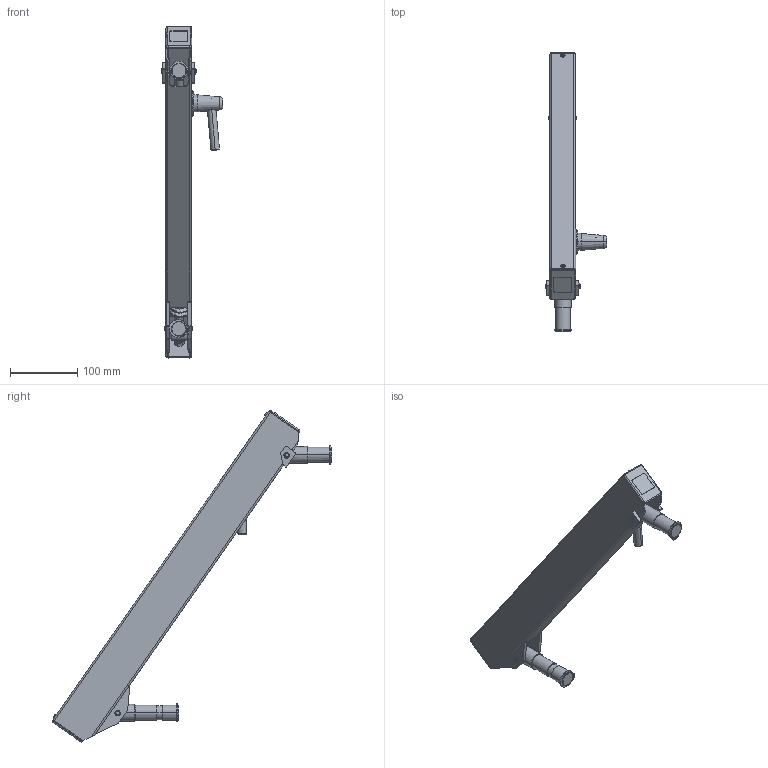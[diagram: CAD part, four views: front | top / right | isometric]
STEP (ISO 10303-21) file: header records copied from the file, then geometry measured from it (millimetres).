
FILE_DESCRIPTION (( 'STEP AP203' ), '1' );
FILE_NAME ('70-1833-00 REV AA, FLEX SECTION, 18in, 6-33 LB - DOWN.STEP', '2025-06-10T23:23:11', ( '' ), ( '' ), 'SwSTEP 2.0', 'SolidWorks 2025', '' );
FILE_SCHEMA (( 'CONFIG_CONTROL_DESIGN' ));
Length unit declared in the file: inch
Products named in the file (32): 11-0027-RX REV AA, PLASTIC DISC, BRAKE ASSEMBLY_MACHINE; 71-2032-RX REV AA, SPRING ROD, 18in FLEX; 71-0037-RX REV AA, PIVOT, THREADED; 71-0028-RX REV AA, TAB, MOUNT_MACHINE; 71-1801-BLKX REV AA, FLEX HOUSING, 18in, BLACK; 006-004-00_006-004-00; 71-0071-RX REV AA, AXLE PIN, LONG; 71-0070-RX REV AA, AXLE PIN, SHORT; 71-0030-RX REV AA, KNUCKLE, LOAD_MACHINE; 11-0650-00 REV AA, BRAKE HANDLE ASSEMBLY; 013-037-00, SPRING, GREEN, 1x12; 71-3033-99 REV AA, BOLT, ADJUSTING, 15.250; 004-050-00, WASHER, FIBER, .032 THK, .265ID; 016-070-00, BEARING, PLASTIC, .5ID x .625 OD x .75; 11-0601-99 REV AA, CONICAL KNOB, BRAKE ASSEMBLY; 004-144-00; 002-041-00_002-041-00; 006-059-00; 71-1051-RX REV AA, SPRING BLOCK; 011-033-00; 11-0602-RX REV AA, HANDLE, BRAKE ASSEMBLY; 71-0038-RX REV AA, PIVOT, KNUCKLE, ELECTROLESS NICKEL; 70-1833-00 REV AA, FLEX SECTION, 18in, 6-33 LB - DOWN; 010-012-00, RETAINING RING, EXTERNAL, .875in SHAFT; 71-0029-RX REV AA, TAB, LOAD; 71-0972-99 REV AA, END CAP, FLEX; 010-011-00, RETAINING RING, EXT, .250 SHAFT_010-011-00; 71-0031-RX REV AA, KNUCKLE, MOUNT_MACHINE; 71-0040-RX REV AA, BRAKE BLOCK, WIDE_MACHINE; 005-084-00, BOLT, 1''4-20x2.75; 71-1800-RX REV AA, HOUSING, 18in FLEX; 011-020-00 REV AA, PIN, KNURLED, 1.0LG x .25OD
Assembly tree (52 placements, depth 3):
  70-1833-00 REV AA, FLEX SECTION, 18in, 6-33 LB - DOWN
    71-0031-RX REV AA, KNUCKLE, MOUNT_MACHINE
    71-2032-RX REV AA, SPRING ROD, 18in FLEX
    71-0030-RX REV AA, KNUCKLE, LOAD_MACHINE
    71-0038-RX REV AA, PIVOT, KNUCKLE, ELECTROLESS NICKEL
    71-3033-99 REV AA, BOLT, ADJUSTING, 15.250
    71-0040-RX REV AA, BRAKE BLOCK, WIDE_MACHINE
    11-0027-RX REV AA, PLASTIC DISC, BRAKE ASSEMBLY_MACHINE
    71-1051-RX REV AA, SPRING BLOCK
    71-0037-RX REV AA, PIVOT, THREADED
    71-0972-99 REV AA, END CAP, FLEX  x2
    11-0650-00 REV AA, BRAKE HANDLE ASSEMBLY
      11-0601-99 REV AA, CONICAL KNOB, BRAKE ASSEMBLY
      11-0602-RX REV AA, HANDLE, BRAKE ASSEMBLY
      11-0027-RX REV AA, PLASTIC DISC, BRAKE ASSEMBLY_MACHINE
      005-084-00, BOLT, 1''4-20x2.75
    71-0071-RX REV AA, AXLE PIN, LONG
    71-1801-BLKX REV AA, FLEX HOUSING, 18in, BLACK
      71-1800-RX REV AA, HOUSING, 18in FLEX
      71-0029-RX REV AA, TAB, LOAD  x2
      71-0028-RX REV AA, TAB, MOUNT_MACHINE  x2
    71-0070-RX REV AA, AXLE PIN, SHORT
    010-011-00, RETAINING RING, EXT, .250 SHAFT_010-011-00  x4
    002-041-00_002-041-00  x2
    010-012-00, RETAINING RING, EXTERNAL, .875in SHAFT  x2
    011-020-00 REV AA, PIN, KNURLED, 1.0LG x .25OD  x2
    011-033-00
    004-144-00  x3
    013-037-00, SPRING, GREEN, 1x12
    016-070-00, BEARING, PLASTIC, .5ID x .625 OD x .75  x2
    006-059-00
    006-004-00_006-004-00  x2
    004-050-00, WASHER, FIBER, .032 THK, .265ID  x8
Bounding box: 91.63 x 414.76 x 492.66 mm (x, y, z)
Volume: 592145 mm3; surface area: 388999.2 mm2
Topology: 52 solids, 52 shells, 1064 faces, 2599 edges, 1632 vertices
Faces by surface type: cylinder 447, plane 365, cone 181, torus 45, bspline 20, sphere 6
Entity records: 53368 total; most frequent: CARTESIAN_POINT 32256, ORIENTED_EDGE 3592, DIRECTION 3575, EDGE_CURVE 1796, AXIS2_PLACEMENT_3D 1369, VERTEX_POINT 1126, VECTOR 837, LINE 837
